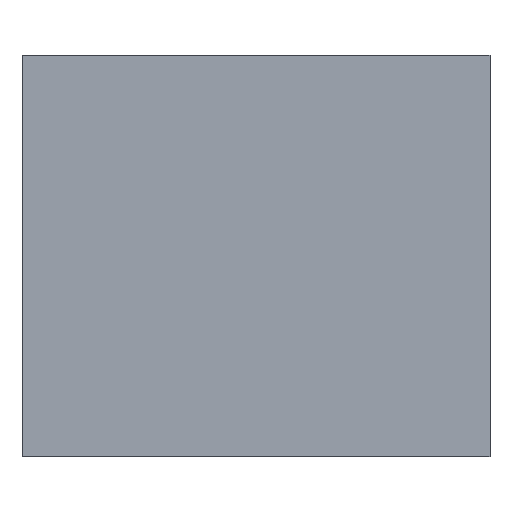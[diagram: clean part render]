
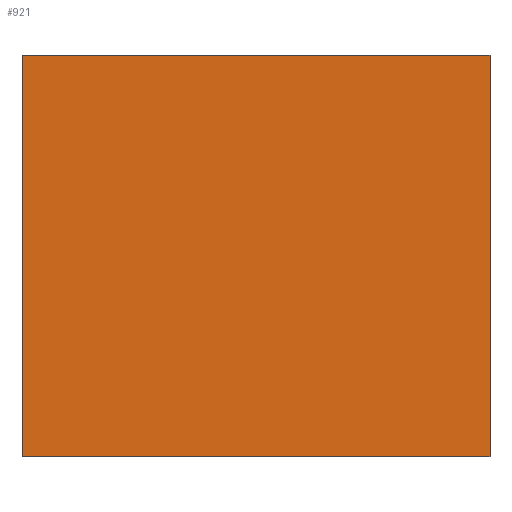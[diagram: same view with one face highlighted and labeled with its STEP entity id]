
A CAD part, top view. The second image highlights one B-rep face of the part: STEP entity #921.
In plain terms, the highlighted planar face has unit normal (0, 0, 1).
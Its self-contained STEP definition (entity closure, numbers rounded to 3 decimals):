
#6 = CARTESIAN_POINT ( 'NONE',  ( 70., 30., 30. ) ) ;
#150 = LINE ( 'NONE', #6, #856 ) ;
#230 = EDGE_CURVE ( 'NONE', #1063, #1349, #491, .T. ) ;
#292 = DIRECTION ( 'NONE',  ( -1., 0., 0. ) ) ;
#330 = CARTESIAN_POINT ( 'NONE',  ( 70., 30., 30. ) ) ;
#447 = EDGE_CURVE ( 'NONE', #1130, #1144, #798, .T. ) ;
#491 = LINE ( 'NONE', #1267, #1408 ) ;
#494 = EDGE_CURVE ( 'NONE', #1130, #1063, #923, .T. ) ;
#585 = PLANE ( 'NONE',  #607 ) ;
#596 = FACE_OUTER_BOUND ( 'NONE', #804, .T. ) ;
#607 = AXIS2_PLACEMENT_3D ( 'NONE', #1027, #893, #1401 ) ;
#715 = CARTESIAN_POINT ( 'NONE',  ( 70., -30., 30. ) ) ;
#743 = EDGE_CURVE ( 'NONE', #1144, #1349, #150, .T. ) ;
#798 = LINE ( 'NONE', #1437, #1251 ) ;
#804 = EDGE_LOOP ( 'NONE', ( #1154, #1017, #1540, #960 ) ) ;
#816 = CARTESIAN_POINT ( 'NONE',  ( 0., -30., 30. ) ) ;
#831 = CARTESIAN_POINT ( 'NONE',  ( 70., -30., 30. ) ) ;
#856 = VECTOR ( 'NONE', #1007, 1000. ) ;
#893 = DIRECTION ( 'NONE',  ( 0., 0., 1. ) ) ;
#921 = ADVANCED_FACE ( 'NONE', ( #596 ), #585, .T. ) ;
#923 = LINE ( 'NONE', #831, #1487 ) ;
#940 = DIRECTION ( 'NONE',  ( 0., 1., 0. ) ) ;
#960 = ORIENTED_EDGE ( 'NONE', *, *, #743, .T. ) ;
#1007 = DIRECTION ( 'NONE',  ( -1., 0., 0. ) ) ;
#1017 = ORIENTED_EDGE ( 'NONE', *, *, #494, .F. ) ;
#1027 = CARTESIAN_POINT ( 'NONE',  ( 70., -30., 30. ) ) ;
#1063 = VERTEX_POINT ( 'NONE', #816 ) ;
#1130 = VERTEX_POINT ( 'NONE', #715 ) ;
#1144 = VERTEX_POINT ( 'NONE', #330 ) ;
#1154 = ORIENTED_EDGE ( 'NONE', *, *, #230, .F. ) ;
#1251 = VECTOR ( 'NONE', #940, 1000. ) ;
#1267 = CARTESIAN_POINT ( 'NONE',  ( 0., -30., 30. ) ) ;
#1349 = VERTEX_POINT ( 'NONE', #1583 ) ;
#1401 = DIRECTION ( 'NONE',  ( 1., 0., 0. ) ) ;
#1408 = VECTOR ( 'NONE', #1480, 1000. ) ;
#1437 = CARTESIAN_POINT ( 'NONE',  ( 70., -30., 30. ) ) ;
#1480 = DIRECTION ( 'NONE',  ( 0., 1., 0. ) ) ;
#1487 = VECTOR ( 'NONE', #292, 1000. ) ;
#1540 = ORIENTED_EDGE ( 'NONE', *, *, #447, .T. ) ;
#1583 = CARTESIAN_POINT ( 'NONE',  ( 0., 30., 30. ) ) ;
